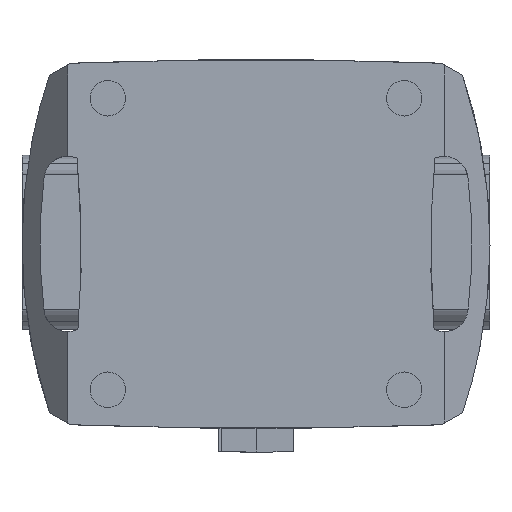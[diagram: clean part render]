
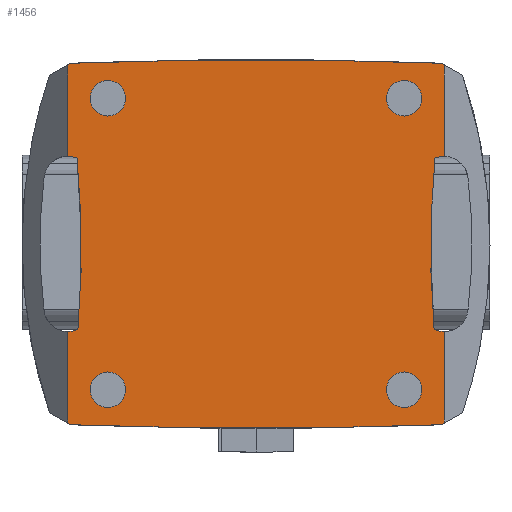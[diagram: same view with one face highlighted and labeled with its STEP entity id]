
A CAD part, front view. The second image highlights one B-rep face of the part: STEP entity #1456.
In plain terms, the highlighted planar face has unit normal (0, -1, 0).
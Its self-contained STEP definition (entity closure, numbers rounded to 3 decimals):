
#69=FACE_BOUND('',#313,.T.);
#70=FACE_BOUND('',#314,.T.);
#71=FACE_BOUND('',#315,.T.);
#72=FACE_BOUND('',#316,.T.);
#112=PLANE('',#1620);
#151=CIRCLE('',#1591,15.);
#153=CIRCLE('',#1595,15.);
#155=CIRCLE('',#1599,15.);
#157=CIRCLE('',#1603,15.);
#160=CIRCLE('',#1612,19.949);
#161=CIRCLE('',#1619,814.94);
#162=CIRCLE('',#1621,19.949);
#163=CIRCLE('',#1622,4004.592);
#164=CIRCLE('',#1623,19.949);
#165=CIRCLE('',#1624,814.94);
#166=CIRCLE('',#1625,19.949);
#167=CIRCLE('',#1626,4004.592);
#227=FACE_OUTER_BOUND('',#312,.T.);
#312=EDGE_LOOP('',(#1218,#1219,#1220,#1221,#1222,#1223,#1224,#1225,#1226,
#1227,#1228,#1229,#1230,#1231,#1232,#1233));
#313=EDGE_LOOP('',(#1234));
#314=EDGE_LOOP('',(#1235));
#315=EDGE_LOOP('',(#1236));
#316=EDGE_LOOP('',(#1237));
#432=LINE('',#2476,#560);
#435=LINE('',#2484,#563);
#437=LINE('',#2497,#565);
#438=LINE('',#2501,#566);
#439=LINE('',#2503,#567);
#440=LINE('',#2511,#568);
#441=LINE('',#2513,#569);
#442=LINE('',#2516,#570);
#560=VECTOR('',#1951,10.);
#563=VECTOR('',#1956,10.);
#565=VECTOR('',#1972,10.);
#566=VECTOR('',#1975,10.);
#567=VECTOR('',#1976,10.);
#568=VECTOR('',#1983,10.);
#569=VECTOR('',#1984,10.);
#570=VECTOR('',#1987,10.);
#685=VERTEX_POINT('',#2431);
#687=VERTEX_POINT('',#2438);
#689=VERTEX_POINT('',#2445);
#691=VERTEX_POINT('',#2452);
#694=VERTEX_POINT('',#2464);
#698=VERTEX_POINT('',#2471);
#699=VERTEX_POINT('',#2475);
#702=VERTEX_POINT('',#2481);
#703=VERTEX_POINT('',#2483);
#706=VERTEX_POINT('',#2491);
#707=VERTEX_POINT('',#2496);
#708=VERTEX_POINT('',#2498);
#709=VERTEX_POINT('',#2500);
#710=VERTEX_POINT('',#2502);
#711=VERTEX_POINT('',#2504);
#712=VERTEX_POINT('',#2506);
#713=VERTEX_POINT('',#2508);
#714=VERTEX_POINT('',#2510);
#715=VERTEX_POINT('',#2512);
#716=VERTEX_POINT('',#2514);
#861=EDGE_CURVE('',#685,#685,#151,.T.);
#864=EDGE_CURVE('',#687,#687,#153,.T.);
#867=EDGE_CURVE('',#689,#689,#155,.T.);
#870=EDGE_CURVE('',#691,#691,#157,.T.);
#878=EDGE_CURVE('',#694,#698,#160,.T.);
#879=EDGE_CURVE('',#699,#694,#432,.T.);
#883=EDGE_CURVE('',#703,#702,#435,.T.);
#888=EDGE_CURVE('',#698,#706,#161,.T.);
#889=EDGE_CURVE('',#703,#706,#162,.T.);
#890=EDGE_CURVE('',#702,#707,#437,.T.);
#891=EDGE_CURVE('',#707,#708,#163,.T.);
#892=EDGE_CURVE('',#708,#709,#438,.T.);
#893=EDGE_CURVE('',#709,#710,#439,.T.);
#894=EDGE_CURVE('',#710,#711,#164,.T.);
#895=EDGE_CURVE('',#711,#712,#165,.T.);
#896=EDGE_CURVE('',#713,#712,#166,.T.);
#897=EDGE_CURVE('',#713,#714,#440,.T.);
#898=EDGE_CURVE('',#714,#715,#441,.T.);
#899=EDGE_CURVE('',#715,#716,#167,.T.);
#900=EDGE_CURVE('',#716,#699,#442,.T.);
#1218=ORIENTED_EDGE('',*,*,#878,.T.);
#1219=ORIENTED_EDGE('',*,*,#888,.T.);
#1220=ORIENTED_EDGE('',*,*,#889,.F.);
#1221=ORIENTED_EDGE('',*,*,#883,.T.);
#1222=ORIENTED_EDGE('',*,*,#890,.T.);
#1223=ORIENTED_EDGE('',*,*,#891,.T.);
#1224=ORIENTED_EDGE('',*,*,#892,.T.);
#1225=ORIENTED_EDGE('',*,*,#893,.T.);
#1226=ORIENTED_EDGE('',*,*,#894,.T.);
#1227=ORIENTED_EDGE('',*,*,#895,.T.);
#1228=ORIENTED_EDGE('',*,*,#896,.F.);
#1229=ORIENTED_EDGE('',*,*,#897,.T.);
#1230=ORIENTED_EDGE('',*,*,#898,.T.);
#1231=ORIENTED_EDGE('',*,*,#899,.T.);
#1232=ORIENTED_EDGE('',*,*,#900,.T.);
#1233=ORIENTED_EDGE('',*,*,#879,.T.);
#1234=ORIENTED_EDGE('',*,*,#861,.T.);
#1235=ORIENTED_EDGE('',*,*,#864,.T.);
#1236=ORIENTED_EDGE('',*,*,#867,.T.);
#1237=ORIENTED_EDGE('',*,*,#870,.T.);
#1456=ADVANCED_FACE('',(#227,#69,#70,#71,#72),#112,.F.);
#1591=AXIS2_PLACEMENT_3D('',#2433,#1899,#1900);
#1595=AXIS2_PLACEMENT_3D('',#2440,#1908,#1909);
#1599=AXIS2_PLACEMENT_3D('',#2447,#1917,#1918);
#1603=AXIS2_PLACEMENT_3D('',#2454,#1926,#1927);
#1612=AXIS2_PLACEMENT_3D('',#2473,#1947,#1948);
#1619=AXIS2_PLACEMENT_3D('',#2493,#1966,#1967);
#1620=AXIS2_PLACEMENT_3D('',#2494,#1968,#1969);
#1621=AXIS2_PLACEMENT_3D('',#2495,#1970,#1971);
#1622=AXIS2_PLACEMENT_3D('',#2499,#1973,#1974);
#1623=AXIS2_PLACEMENT_3D('',#2505,#1977,#1978);
#1624=AXIS2_PLACEMENT_3D('',#2507,#1979,#1980);
#1625=AXIS2_PLACEMENT_3D('',#2509,#1981,#1982);
#1626=AXIS2_PLACEMENT_3D('',#2515,#1985,#1986);
#1899=DIRECTION('center_axis',(0.,1.,0.));
#1900=DIRECTION('ref_axis',(1.,0.,0.));
#1908=DIRECTION('center_axis',(0.,1.,0.));
#1909=DIRECTION('ref_axis',(1.,0.,0.));
#1917=DIRECTION('center_axis',(0.,1.,0.));
#1918=DIRECTION('ref_axis',(1.,0.,0.));
#1926=DIRECTION('center_axis',(0.,1.,0.));
#1927=DIRECTION('ref_axis',(1.,0.,0.));
#1947=DIRECTION('center_axis',(0.,1.,0.));
#1948=DIRECTION('ref_axis',(-0.992,0.,0.128));
#1951=DIRECTION('',(0.,0.,-1.));
#1956=DIRECTION('',(0.,0.,-1.));
#1966=DIRECTION('center_axis',(0.,1.,0.));
#1967=DIRECTION('ref_axis',(0.983,0.,0.182));
#1968=DIRECTION('center_axis',(0.,1.,0.));
#1969=DIRECTION('ref_axis',(-1.,0.,0.));
#1970=DIRECTION('center_axis',(0.,-1.,0.));
#1971=DIRECTION('ref_axis',(0.,0.,-1.));
#1972=DIRECTION('',(0.871,0.,-0.492));
#1973=DIRECTION('center_axis',(0.,-1.,0.));
#1974=DIRECTION('ref_axis',(0.014,0.,-1.));
#1975=DIRECTION('',(0.871,0.,0.492));
#1976=DIRECTION('',(0.,0.,1.));
#1977=DIRECTION('center_axis',(0.,1.,0.));
#1978=DIRECTION('ref_axis',(0.992,0.,-0.128));
#1979=DIRECTION('center_axis',(0.,1.,0.));
#1980=DIRECTION('ref_axis',(-1.,0.,0.005));
#1981=DIRECTION('center_axis',(0.,-1.,0.));
#1982=DIRECTION('ref_axis',(0.,0.,1.));
#1983=DIRECTION('',(0.,0.,1.));
#1984=DIRECTION('',(-0.871,0.,0.492));
#1985=DIRECTION('center_axis',(0.,-1.,0.));
#1986=DIRECTION('ref_axis',(-0.014,0.,1.));
#1987=DIRECTION('',(-0.871,0.,-0.492));
#2431=CARTESIAN_POINT('',(110.,-8.,-123.));
#2433=CARTESIAN_POINT('Origin',(125.,-8.,-123.));
#2438=CARTESIAN_POINT('',(110.,-8.,123.));
#2440=CARTESIAN_POINT('Origin',(125.,-8.,123.));
#2445=CARTESIAN_POINT('',(-140.,-8.,123.));
#2447=CARTESIAN_POINT('Origin',(-125.,-8.,123.));
#2452=CARTESIAN_POINT('',(-140.,-8.,-123.));
#2454=CARTESIAN_POINT('Origin',(-125.,-8.,-123.));
#2464=CARTESIAN_POINT('',(-159.015,-8.,74.));
#2471=CARTESIAN_POINT('',(-151.009,-8.,72.322));
#2473=CARTESIAN_POINT('Origin',(-159.017,-8.,54.051));
#2475=CARTESIAN_POINT('',(-159.015,-8.,151.095));
#2476=CARTESIAN_POINT('',(-159.015,-8.,0.));
#2481=CARTESIAN_POINT('',(-159.015,-8.,-151.095));
#2483=CARTESIAN_POINT('',(-159.015,-8.,-74.));
#2484=CARTESIAN_POINT('',(-159.015,-8.,0.));
#2491=CARTESIAN_POINT('',(-150.283,-8.,-71.987));
#2493=CARTESIAN_POINT('Origin',(-962.376,-8.,-3.914));
#2494=CARTESIAN_POINT('Origin',(0.,-8.,0.));
#2495=CARTESIAN_POINT('Origin',(-159.017,-8.,-54.051));
#2496=CARTESIAN_POINT('',(-156.467,-8.,-152.534));
#2497=CARTESIAN_POINT('',(-155.715,-8.,-152.959));
#2498=CARTESIAN_POINT('',(156.467,-8.,-152.534));
#2499=CARTESIAN_POINT('Origin',(0.,-8.,3849.));
#2500=CARTESIAN_POINT('',(159.015,-8.,-151.095));
#2501=CARTESIAN_POINT('',(174.367,-8.,-142.425));
#2502=CARTESIAN_POINT('',(159.015,-8.,-74.));
#2503=CARTESIAN_POINT('',(159.015,-8.,0.));
#2504=CARTESIAN_POINT('',(150.283,-8.,-71.987));
#2505=CARTESIAN_POINT('Origin',(159.017,-8.,-54.051));
#2506=CARTESIAN_POINT('',(151.009,-8.,72.322));
#2507=CARTESIAN_POINT('Origin',(962.376,-8.,-3.914));
#2508=CARTESIAN_POINT('',(159.015,-8.,74.));
#2509=CARTESIAN_POINT('Origin',(159.017,-8.,54.051));
#2510=CARTESIAN_POINT('',(159.015,-8.,151.095));
#2511=CARTESIAN_POINT('',(159.015,-8.,0.));
#2512=CARTESIAN_POINT('',(156.467,-8.,152.534));
#2513=CARTESIAN_POINT('',(174.367,-8.,142.425));
#2514=CARTESIAN_POINT('',(-156.467,-8.,152.534));
#2515=CARTESIAN_POINT('Origin',(0.,-8.,
-3849.));
#2516=CARTESIAN_POINT('',(-155.715,-8.,152.959));
